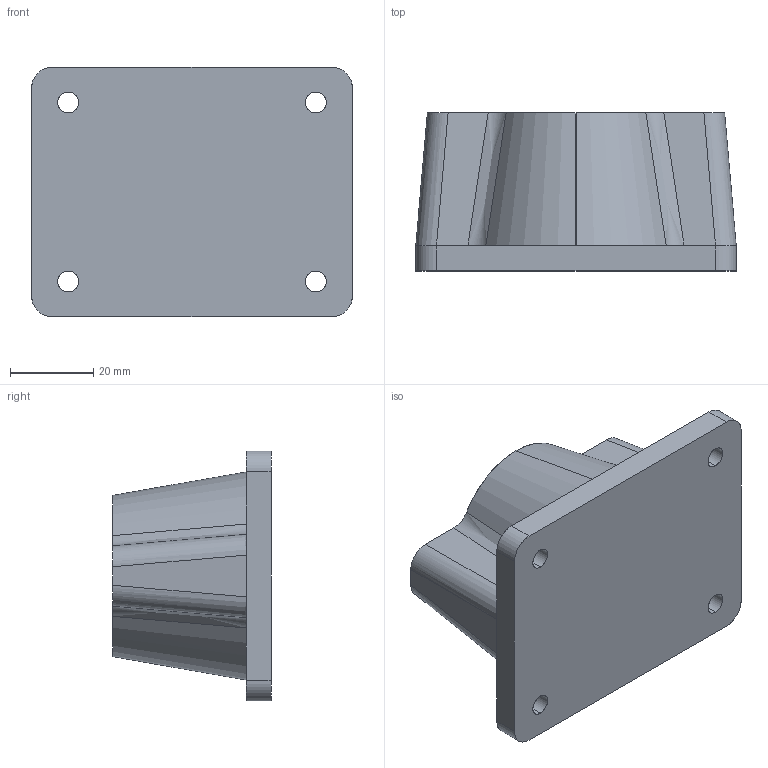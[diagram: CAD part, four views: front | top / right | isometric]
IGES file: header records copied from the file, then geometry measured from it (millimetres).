
Start section: SolidWorks IGES file using analytic representation for surfaces
Global section: file name: C:\Solidworks\omat tuotteet\Space charge models\Multigate\halkeavat\IGES\105928.IGS; native system: SolidWorks 2016; preprocessor: SolidWorks 2016; author: joni.lehtonen; date: 160215.093135; units: millimetre
Bounding box: 77 x 38 x 60 mm (x, y, z)
Surface area: 16411.2 mm2 (no closed solid volume)
Topology: 0 solids, 0 shells, 37 faces, 716 edges, 716 vertices
Faces by surface type: revolution 19, bspline 18
